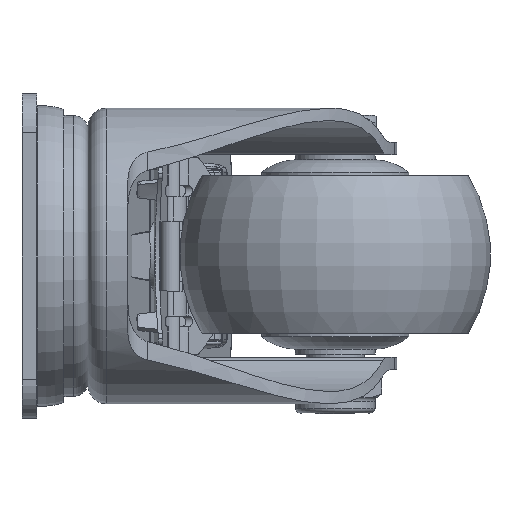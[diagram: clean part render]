
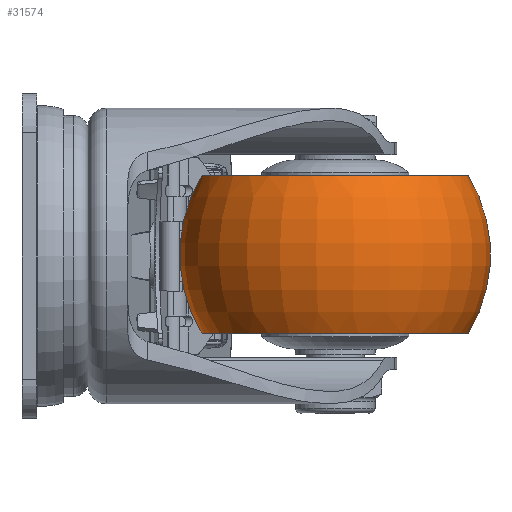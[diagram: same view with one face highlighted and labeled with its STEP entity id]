
A CAD part, left-side view. The second image highlights one B-rep face of the part: STEP entity #31574.
In plain terms, the highlighted toroidal (fillet/blend) face has major radius 0.806 mm and minor radius 30.694 mm.
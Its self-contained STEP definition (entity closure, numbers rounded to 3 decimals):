
#20050 = CARTESIAN_POINT ( 'NONE',  ( 0., 16., 27. ) ) ;
#20051 = CARTESIAN_POINT ( 'NONE',  ( 0., 16., -27. ) ) ;
#20180 = CARTESIAN_POINT ( 'NONE',  ( 0., -16., 27. ) ) ;
#20182 = DIRECTION ( 'NONE',  ( 0., 0., -1. ) ) ;
#20183 = DIRECTION ( 'NONE',  ( 1., 0., 0. ) ) ;
#20186 = CARTESIAN_POINT ( 'NONE',  ( 0., 0., 0.806 ) ) ;
#20188 = AXIS2_PLACEMENT_3D ( 'NONE', #20186, #20183, #20182 ) ;
#20190 = CIRCLE ( 'NONE', #20188, 30.694 ) ;
#20272 = DIRECTION ( 'NONE',  ( 0., 0., 1. ) ) ;
#20274 = DIRECTION ( 'NONE',  ( -1., 0., 0. ) ) ;
#20276 = CARTESIAN_POINT ( 'NONE',  ( 0., 0., -0.806 ) ) ;
#20278 = AXIS2_PLACEMENT_3D ( 'NONE', #20276, #20274, #20272 ) ;
#20279 = CIRCLE ( 'NONE', #20278, 30.694 ) ;
#20286 = CARTESIAN_POINT ( 'NONE',  ( 0., -16., -27. ) ) ;
#20738 = DIRECTION ( 'NONE',  ( 0., 0., -1. ) ) ;
#20739 = DIRECTION ( 'NONE',  ( 0., -1., 0. ) ) ;
#20741 = CARTESIAN_POINT ( 'NONE',  ( 0., -16., 0. ) ) ;
#20742 = AXIS2_PLACEMENT_3D ( 'NONE', #20741, #20739, #20738 ) ;
#20743 = DIRECTION ( 'NONE',  ( 0., 0., -1. ) ) ;
#20744 = DIRECTION ( 'NONE',  ( 0., -1., 0. ) ) ;
#20745 = CARTESIAN_POINT ( 'NONE',  ( 0., 0., 0. ) ) ;
#20747 = AXIS2_PLACEMENT_3D ( 'NONE', #20745, #20744, #20743 ) ;
#20749 = CIRCLE ( 'NONE', #20742, 27. ) ;
#20752 = TOROIDAL_SURFACE ( 'NONE', #20747, 0.806, 30.694 ) ;
#20753 = FACE_OUTER_BOUND ( 'NONE', #31577, .T. ) ;
#20755 = DIRECTION ( 'NONE',  ( 0., 0., -1. ) ) ;
#20756 = DIRECTION ( 'NONE',  ( 0., -1., 0. ) ) ;
#20757 = CARTESIAN_POINT ( 'NONE',  ( 0., 16., 0. ) ) ;
#20759 = AXIS2_PLACEMENT_3D ( 'NONE', #20757, #20756, #20755 ) ;
#20760 = CIRCLE ( 'NONE', #20759, 27. ) ;
#31123 = VERTEX_POINT ( 'NONE', #20051 ) ;
#31126 = VERTEX_POINT ( 'NONE', #20050 ) ;
#31243 = EDGE_CURVE ( 'NONE', #31126, #31245, #20190, .T. ) ;
#31245 = VERTEX_POINT ( 'NONE', #20180 ) ;
#31255 = VERTEX_POINT ( 'NONE', #20286 ) ;
#31259 = EDGE_CURVE ( 'NONE', #31123, #31255, #20279, .T. ) ;
#31563 = EDGE_CURVE ( 'NONE', #31126, #31123, #20760, .T. ) ;
#31574 = ADVANCED_FACE ( 'NONE', ( #20753 ), #20752, .T. ) ;
#31577 = EDGE_LOOP ( 'NONE', ( #31579, #31580, #31582, #31584 ) ) ;
#31579 = ORIENTED_EDGE ( 'NONE', *, *, #31243, .F. ) ;
#31580 = ORIENTED_EDGE ( 'NONE', *, *, #31563, .T. ) ;
#31582 = ORIENTED_EDGE ( 'NONE', *, *, #31259, .T. ) ;
#31584 = ORIENTED_EDGE ( 'NONE', *, *, #31586, .F. ) ;
#31586 = EDGE_CURVE ( 'NONE', #31245, #31255, #20749, .T. ) ;
